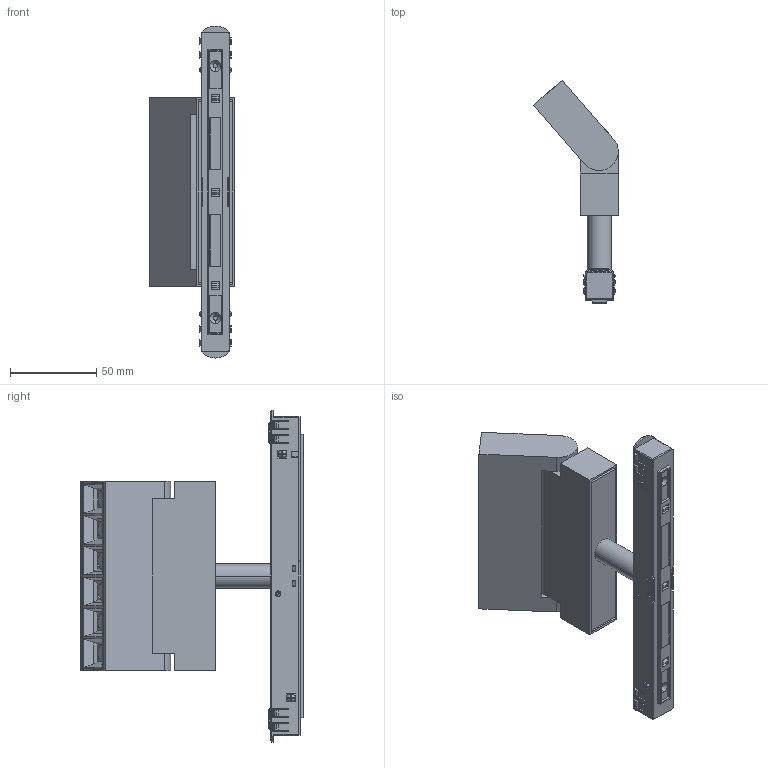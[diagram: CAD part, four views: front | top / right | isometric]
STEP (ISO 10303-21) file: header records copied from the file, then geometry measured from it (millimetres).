
FILE_DESCRIPTION (( 'STEP AP203' ), '1' );
FILE_NAME ('410087.STEP', '2025-04-02T01:54:45', ( '微软用户' ), ( '微软中国' ), 'SwSTEP 2.0', 'SolidWorks 2020', '' );
FILE_SCHEMA (( 'CONFIG_CONTROL_DESIGN' ));
Length unit declared in the file: millimetre
Products named in the file (19): MANIFOLD_SOLID_BREP_5197; MANIFOLD_SOLID_BREP_1149; 410087; ZUJIAN_TOUJING_6_ASM; MANIFOLD_SOLID_BREP_1150; 1432LVJIAN; MANIFOLD_SOLID_BREP_1155; ZHIJIA_DUANKUAN_SHANGGAI; MANIFOLD_SOLID_BREP_1145; MANIFOLD_SOLID_BREP_1156; ZHIJIA_DUANKUAN; MANIFOLD_SOLID_BREP_1146; 10-07-WJ1; ZHIJIA_0_105MM; MANIFOLD_SOLID_BREP_1147; 10-08-G1_1; MANIFOLD_SOLID_BREP_5198; MANIFOLD_SOLID_BREP_1148; 10-10-gk-2
Assembly tree (18 placements, depth 3):
  410087
    ZHIJIA_DUANKUAN_SHANGGAI
    ZHIJIA_DUANKUAN
    ZHIJIA_0_105MM
    ZUJIAN_TOUJING_6_ASM
      MANIFOLD_SOLID_BREP_5198
      MANIFOLD_SOLID_BREP_5197
    1432LVJIAN
    10-10-gk-2
      MANIFOLD_SOLID_BREP_1145
      MANIFOLD_SOLID_BREP_1146
      MANIFOLD_SOLID_BREP_1147
      MANIFOLD_SOLID_BREP_1148
      MANIFOLD_SOLID_BREP_1149
      MANIFOLD_SOLID_BREP_1150
      MANIFOLD_SOLID_BREP_1155
      MANIFOLD_SOLID_BREP_1156
      10-07-WJ1
      10-08-G1_1
Bounding box: 49.09 x 129.68 x 192.8 mm (x, y, z)
Volume: 111739.7 mm3; surface area: 108074.8 mm2
Topology: 20 solids, 20 shells, 1848 faces, 5026 edges, 3256 vertices
Faces by surface type: plane 1285, cylinder 325, cone 127, bspline 111
Entity records: 73998 total; most frequent: CARTESIAN_POINT 27369, ORIENTED_EDGE 10052, DIRECTION 7920, EDGE_CURVE 5026, VECTOR 3506, LINE 3506, VERTEX_POINT 3256, AXIS2_PLACEMENT_3D 2207
